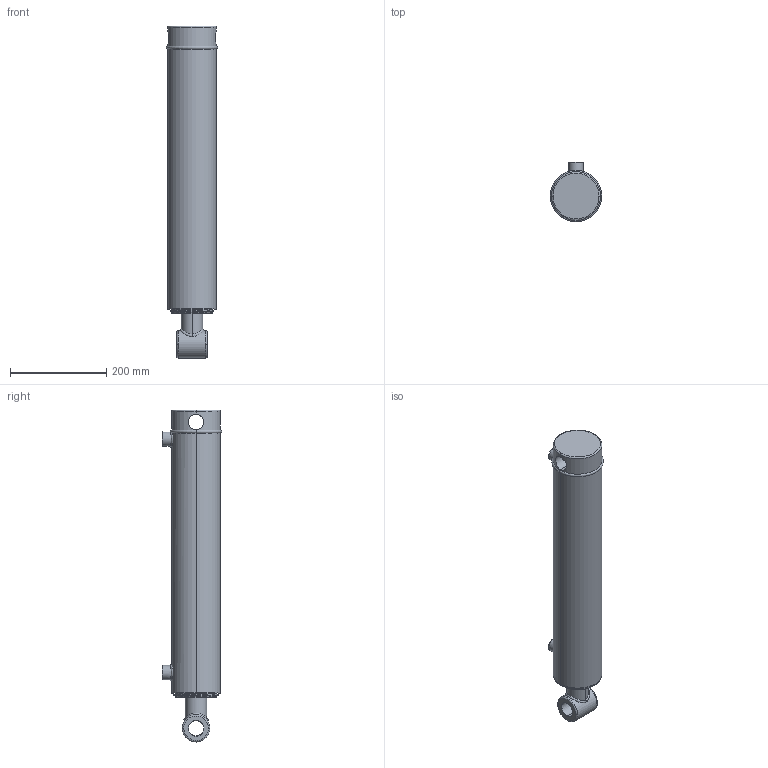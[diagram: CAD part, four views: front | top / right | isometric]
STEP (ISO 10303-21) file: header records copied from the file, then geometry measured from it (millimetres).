
FILE_DESCRIPTION (( 'STEP AP203' ), '1' );
FILE_NAME ('SB-C350175x457 (18).STEP', '2015-03-31T11:46:46', ( '' ), ( '' ), 'SwSTEP 2.0', 'SolidWorks 2015', '' );
FILE_SCHEMA (( 'CONFIG_CONTROL_DESIGN' ));
Length unit declared in the file: millimetre
Products named in the file (6): SB-C350175x457 (18) BODY; 3.5 INCH CIRCLIP; SB-C350175x457 (18); 18 spare; spare 18
Assembly tree (5 placements, depth 3):
  SB-C350175x457 (18)
    SB-C350175x457 (18) BODY
      SB-C350175x457 (18) BODY
      3.5 INCH CIRCLIP
    spare 18
      18 spare
Bounding box: 107.6 x 124.6 x 691.58 mm (x, y, z)
Volume: 5193259.2 mm3; surface area: 375568.5 mm2
Topology: 3 solids, 3 shells, 114 faces, 269 edges, 167 vertices
Faces by surface type: cylinder 49, plane 23, bspline 22, cone 12, torus 8
Entity records: 13049 total; most frequent: CARTESIAN_POINT 9929, ORIENTED_EDGE 530, DIRECTION 518, EDGE_CURVE 265, AXIS2_PLACEMENT_3D 220, VERTEX_POINT 167, EDGE_LOOP 134, CIRCLE 118
